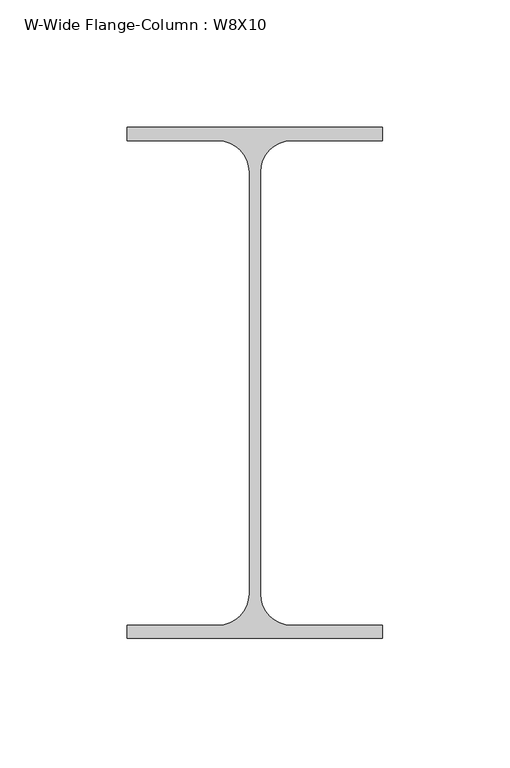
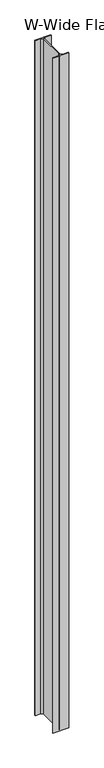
"""IFC4 building model written with IfcOpenShell, lengths in millimetres: column geometry, W-Wide Flange-Column : W8X10."""

from ifc_helpers import new_model, si_unit, point, frame, frame_2d, origin, place, context, project, spatial, polyline, circle_curve, trimmed, segment, composite_curve, outline, extrude, source, transform, mapped, element, save


def w_wide_flange_column_w8x10_6b80fda9(model_context):
    return source(origin(), model_context, "Body", "SweptSolid", [
        extrude(outline(composite_curve([segment(polyline([(50.038, 100.203), (50.038, 94.996), (14.4145, 94.996)]), True, "CONTINUOUS"), segment(trimmed(circle_curve(frame_2d((14.4145, 82.7405)), 12.2555), [point((14.4145, 94.996))], [point((2.159, 82.7405))], True, "CARTESIAN"), True, "CONTINUOUS"), segment(polyline([(2.159, 82.7405), (2.159, -82.7405)]), True, "CONTINUOUS"), segment(trimmed(circle_curve(frame_2d((14.4145, -82.7405)), 12.2555), [point((2.159, -82.7405))], [point((14.4145, -94.996))], True, "CARTESIAN"), True, "CONTINUOUS"), segment(polyline([(14.4145, -94.996), (50.038, -94.996), (50.038, -100.203), (-50.038, -100.203), (-50.038, -94.996), (-14.4145, -94.996)]), True, "CONTINUOUS"), segment(trimmed(circle_curve(frame_2d((-14.4145, -82.7405)), 12.2555), [point((-14.4145, -94.996))], [point((-2.159, -82.7405))], True, "CARTESIAN"), True, "CONTINUOUS"), segment(polyline([(-2.159, -82.7405), (-2.159, 82.7405)]), True, "CONTINUOUS"), segment(trimmed(circle_curve(frame_2d((-14.4145, 82.7405)), 12.2555), [point((-2.159, 82.7405))], [point((-14.4145, 94.996))], True, "CARTESIAN"), True, "CONTINUOUS"), segment(polyline([(-14.4145, 94.996), (-50.038, 94.996), (-50.038, 100.203), (50.038, 100.203)]), True, "CONTINUOUS")], self_intersect=False)), frame((0.0, 0.0, 4445.0), z_axis=(0.0, 0.0, 1.0), x_axis=(1.0, 0.0, 0.0)), (0.0, 0.0, 1.0), 4572.0),
    ])


if __name__ == "__main__":
    model = new_model("IFC4")
    model_context = context("Model", 3, world=origin())
    ifc_project = project(units=[si_unit("LENGTHUNIT", "METRE", prefix="MILLI")], contexts=[model_context])
    site = spatial("IfcSite", under=ifc_project)
    building = spatial("IfcBuilding", under=site)
    placement = place(None, origin())
    w_wide_flange_column_w8x10_shape = w_wide_flange_column_w8x10_6b80fda9(model_context)
    element("IfcColumn", 1, ObjectType="W-Wide Flange-Column : W8X10", at=placement, inside=building, context=model_context, shape_type="MappedRepresentation", body=[
        mapped(w_wide_flange_column_w8x10_shape, transform((0.0, 0.0, 0.0), x_axis=(1.0, 0.0, 0.0), y_axis=(0.0, 1.0, 0.0), z_axis=(0.0, 0.0, 1.0))),
    ])
    save(model, "model.ifc")
